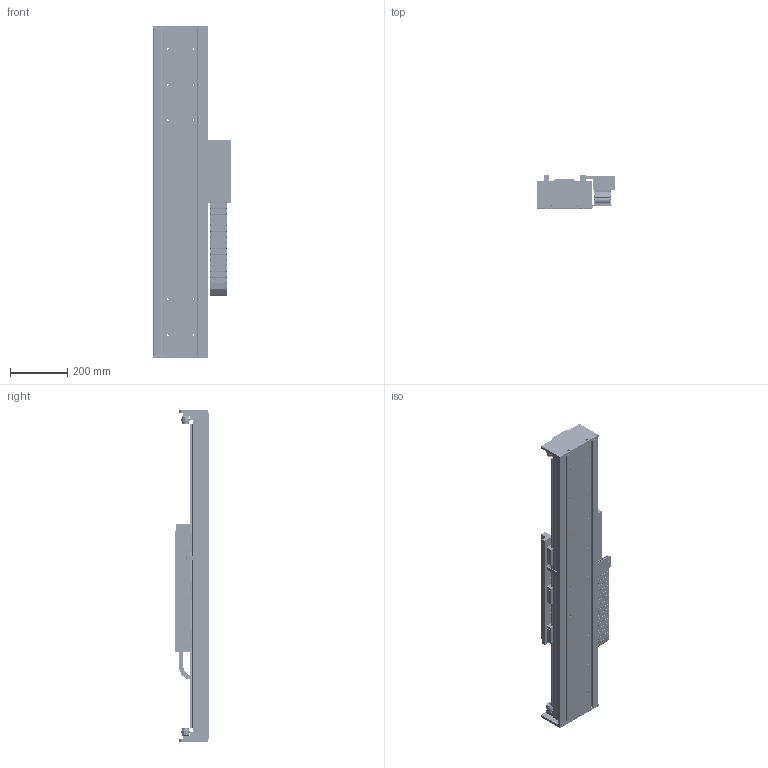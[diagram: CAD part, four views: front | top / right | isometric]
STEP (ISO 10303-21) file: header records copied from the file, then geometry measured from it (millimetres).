
FILE_DESCRIPTION (( 'STEP AP203' ), '1' );
FILE_NAME ('STF50380D-xC1B-Axx.STEP', '2007-10-29T14:51:51', ( 'Yaskawa' ), ( 'Yaskawa' ), 'SwSTEP 2.0', 'SolidWorks 2007', '' );
FILE_SCHEMA (( 'CONFIG_CONTROL_DESIGN' ));
Products named in the file (60): STF50-380 Complete Carriage; 07.50.038.0_20; 07.50.038.0_24; 07.50.038.0_23; STF50380D-xC1B-Axx; SGLFM-50405AC; STF50200 Base_STF50BM-005; SGLFM-50675AC; SSR20 Rail 820_1060; STF50 Large End Stop; Large Bumper; STF50-003 Renishaw Encoder Bracket; 07.50.038.0_45; STF50-004 Flag; RGH22B; STF50-007 End Stop; STCM-002-R2 Cable Assembly Front; SSR20W Block; STF50-0028-R1 F50-380 Carriage Horn; STF50-005-R2 Cable Router; STCM-R1; STCM-001-R2 Cable Bracket; STCM-004 Cable Assembly Side; STCM-005-R1 Cable Assembly Cover; STCM-006-R1 Upper E-chain Bracket; Serial Converter; B18.3.4M - 3 x 0.5 x 12 SBHCS --N_B18.3.4M - 3 x 0.5 x 12 SBHCS --N; B18.3.5M - 3 x 0.5 x 12 Socket FCHS  -- 12N_B18.3.5M - 3 x 0.5 x 12 Socket FCHS  -- 12N; STF50-006 Endplate; STCM-007 Lower E-Chain Bracket; STF50200E; 07.50.038.0_27; 07.50.038.0_28; 07.50.038.0_21; 07.50.038.0_22; 07.50.038.0_25; 07.50.038.0_26; 07.50.038.0_29; 07.50.038.0_30; 07.50.038.0_35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
Assembly tree (128 placements, depth 4):
  STF50380D-xC1B-Axx
    STF50 Large End Stop  x4
      STF50-007 End Stop
      Large Bumper
    SGLFM-50405AC
    SSR20 Rail 820_1060  x2
    STF50-006 Endplate  x2
    STCM-007 Lower E-Chain Bracket
    STF50200E
      07.50.038.0_35
      07.50.038.0_43
      07.50.038.0_32  x6
      07.50.038.0_41
      07.50.038.0_28
      07.50.038.0_31  x5
      07.50.038.0_25
      07.50.038.0_29
      07.50.038.0_40
      07.50.038.0_44
      07.50.038.0_45
      07.50.038.0_21
      07.50.038.0_46
      07.50.038.0_47
      07.50.038.0_24
      07.50.038.0_26
      07.50.038.0_33
      07.50.038.0_39
      07.50.038.0_36
      07.50.038.0_27
      07.50.038.0_42
      07.50.038.0_34
      07.50.038.0_38
      07.50.038.0_30
      07.50.038.0_20
      07.50.038.0_37
      07.50.038.0_22
      07.50.038.0_23
    SGLFM-50675AC
    STF50200 Base_STF50BM-005
    STF50-380 Complete Carriage
      B18.3.1M - 5 x 0.8 x 12 Hex SHCS -- 12NHX_B18.3.1M - 5 x 0.8 x 12 Hex SHCS -- 12NHX  x34
      B18.3.1M - 6 x 1.0 x 25 Hex SHCS -- 25NHX_B18.3.1M - 6 x 1.0 x 25 Hex SHCS -- 25NHX  x10
      B18.3.5M - 3 x 0.5 x 12 Socket FCHS  -- 12N_B18.3.5M - 3 x 0.5 x 12 Socket FCHS  -- 12N  x6
      STF50-003 Renishaw Encoder Bracket
      B18.3.4M - 3 x 0.5 x 12 SBHCS --N_B18.3.4M - 3 x 0.5 x 12 SBHCS --N  x3
      SGLFW-50A380AP
      STF50-0028-R1 F50-380 Carriage Horn  x2
      STF50-001B F50-380 Carriage
      SSR20W Block  x6
      RGH22B
      STF50-005-R2 Cable Router
      STCM-R1
        STCM-005-R1 Cable Assembly Cover
        STCM-001-R2 Cable Bracket
        Serial Converter
        STCM-003 Cable Assembly Bottom
        STCM-002-R2 Cable Assembly Front
        STCM-004 Cable Assembly Side
        STCM-006-R1 Upper E-chain Bracket
      STF50-004 Flag
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Bounding box: 269.74 x 115.5 x 1159.05 mm (x, y, z)
Volume: 10722493.3 mm3; surface area: 2325289.7 mm2
Topology: 162 solids, 162 shells, 6878 faces, 17444 edges, 10945 vertices
Faces by surface type: plane 3534, cylinder 2496, cone 724, torus 110, bspline 8, sphere 6
Entity records: 138018 total; most frequent: DIRECTION 23192, CARTESIAN_POINT 22536, ORIENTED_EDGE 21460, EDGE_CURVE 10730, AXIS2_PLACEMENT_3D 8136, VERTEX_POINT 7026, LINE 6920, VECTOR 6920
